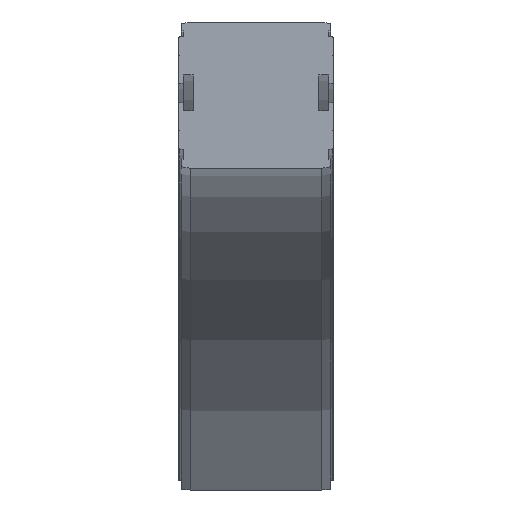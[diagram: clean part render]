
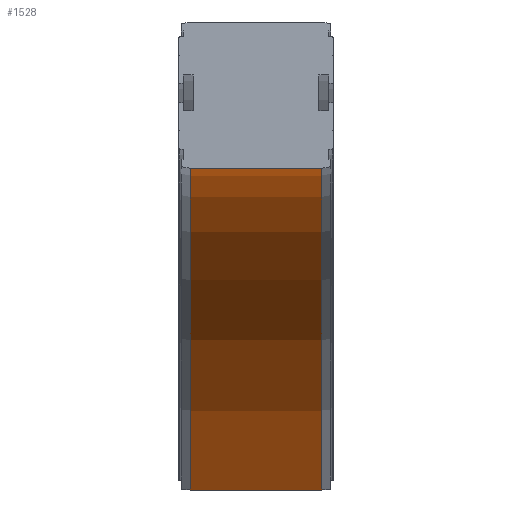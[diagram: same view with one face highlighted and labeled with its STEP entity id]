
A CAD part, left-side view. The second image highlights one B-rep face of the part: STEP entity #1528.
In plain terms, the highlighted cylindrical face has radius 358 mm (diameter 716 mm), a partial arc.
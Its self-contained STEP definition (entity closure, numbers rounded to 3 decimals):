
#1487=CARTESIAN_POINT('',(0.,-18.25,-439.5));
#1488=DIRECTION('',(0.0,1.0,0.0));
#1489=DIRECTION('',(0.0,0.0,1.0));
#1490=AXIS2_PLACEMENT_3D('',#1487,#1488,#1489);
#1491=CYLINDRICAL_SURFACE('',#1490,358.);
#1492=CARTESIAN_POINT('',(310.037,36.5,-260.5));
#1493=VERTEX_POINT('',#1492);
#1494=CARTESIAN_POINT('',(310.037,-36.5,-260.5));
#1495=VERTEX_POINT('',#1494);
#1496=CARTESIAN_POINT('',(310.037,36.5,-260.5));
#1497=DIRECTION('',(0.0,-1.0,0.0));
#1498=VECTOR('',#1497,73.0);
#1499=LINE('',#1496,#1498);
#1500=EDGE_CURVE('',#1493,#1495,#1499,.T.);
#1501=ORIENTED_EDGE('',*,*,#1500,.T.);
#1502=CARTESIAN_POINT('',(0.0,-36.5,-81.5));
#1503=VERTEX_POINT('',#1502);
#1504=CARTESIAN_POINT('',(0.,-36.5,-439.5));
#1505=DIRECTION('',(0.0,1.0,0.0));
#1506=DIRECTION('',(0.0,0.0,1.0));
#1507=AXIS2_PLACEMENT_3D('',#1504,#1505,#1506);
#1508=CIRCLE('',#1507,358.);
#1509=EDGE_CURVE('',#1503,#1495,#1508,.T.);
#1510=ORIENTED_EDGE('',*,*,#1509,.F.);
#1511=CARTESIAN_POINT('',(0.0,36.5,-81.5));
#1512=VERTEX_POINT('',#1511);
#1513=CARTESIAN_POINT('',(0.0,-36.5,-81.5));
#1514=DIRECTION('',(0.0,1.0,0.0));
#1515=VECTOR('',#1514,73.0);
#1516=LINE('',#1513,#1515);
#1517=EDGE_CURVE('',#1503,#1512,#1516,.T.);
#1518=ORIENTED_EDGE('',*,*,#1517,.T.);
#1519=CARTESIAN_POINT('',(0.,36.5,-439.5));
#1520=DIRECTION('',(0.0,1.0,0.0));
#1521=DIRECTION('',(0.0,0.0,1.0));
#1522=AXIS2_PLACEMENT_3D('',#1519,#1520,#1521);
#1523=CIRCLE('',#1522,358.);
#1524=EDGE_CURVE('',#1512,#1493,#1523,.T.);
#1525=ORIENTED_EDGE('',*,*,#1524,.T.);
#1526=EDGE_LOOP('',(#1501,#1510,#1518,#1525));
#1527=FACE_OUTER_BOUND('',#1526,.T.);
#1528=ADVANCED_FACE('',(#1527),#1491,.F.);
